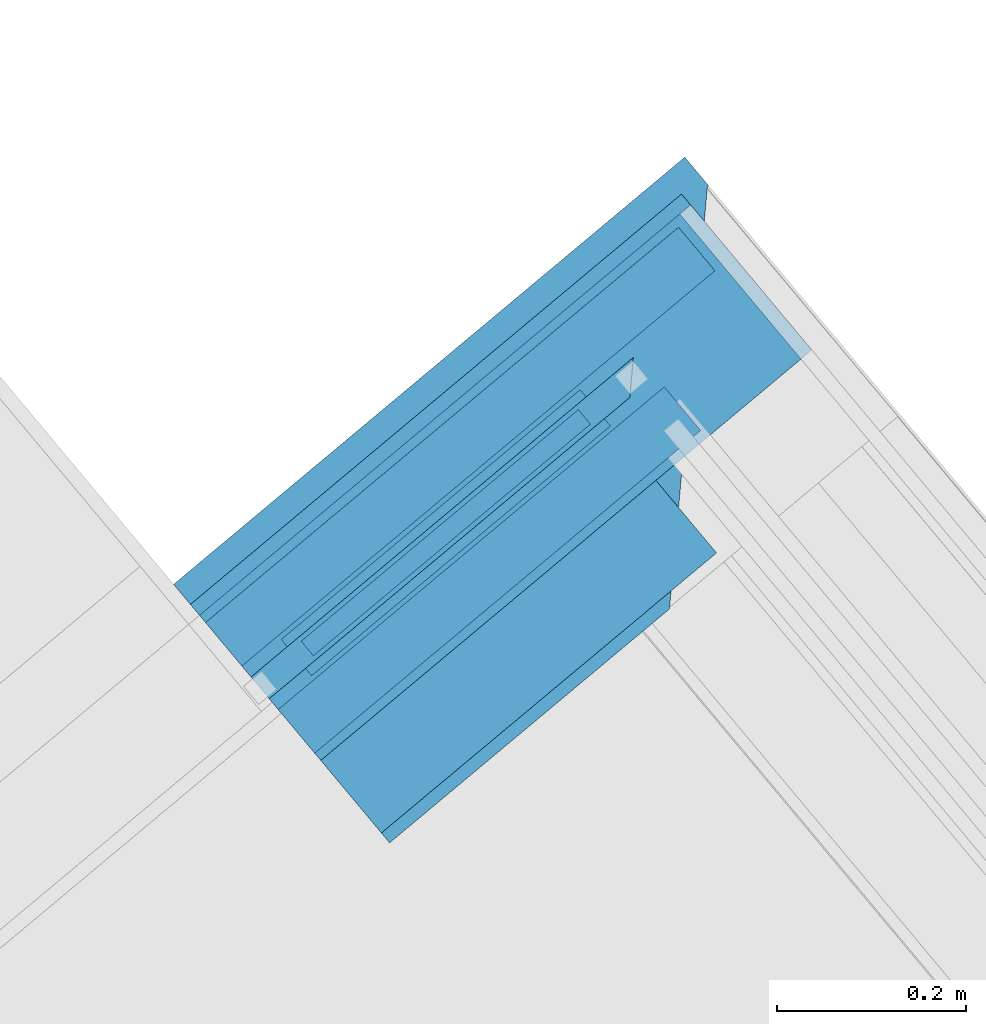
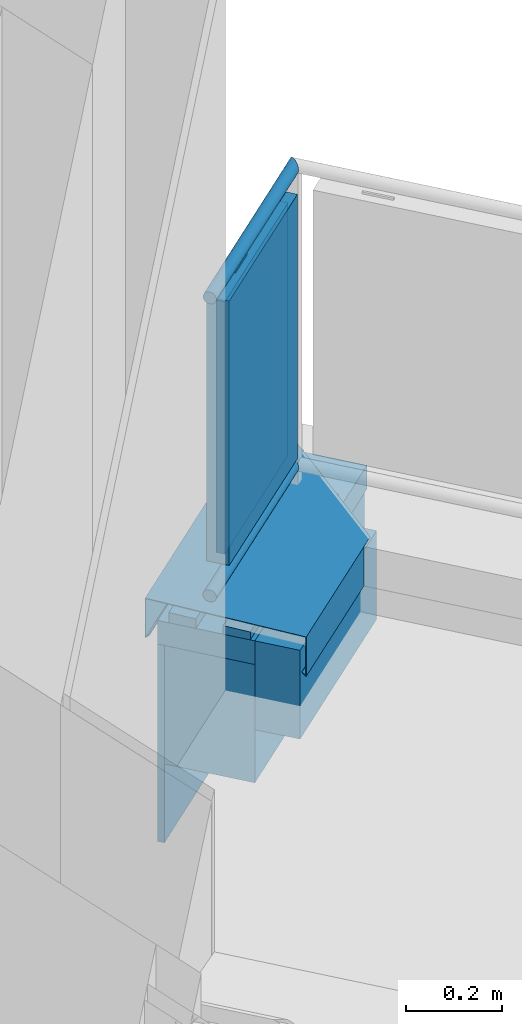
# One storey, part 43 of 50: 11 building element parts, 2 elements without a shape of their own.
"""IFC4 building model written with IfcOpenShell, lengths in metres."""

from ifc_helpers import new_model, entity, si_unit, converted_unit, derived_unit, direction, frame, origin_with_axes, place, context, subcontext, project, spatial, polygons, material, type_object, element, aggregate, save


model = new_model("IFC4")

# Units and contexts
model_context = context("Model", 3, precision=1e-05, world=origin_with_axes(), true_north=direction((0.0, 1.0)))
body_context = subcontext(model_context, "Body", "Model", "MODEL_VIEW")
ifc_project = project(units=[si_unit("LENGTHUNIT", "METRE"), si_unit("AREAUNIT", "SQUARE_METRE"), si_unit("VOLUMEUNIT", "CUBIC_METRE"), converted_unit("PLANEANGLEUNIT", "DEGREE", entity("IfcPlaneAngleMeasure", 0.0174532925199), si_unit("PLANEANGLEUNIT", "RADIAN"), dimensions=[0, 0, 0, 0, 0, 0, 0]), converted_unit("TIMEUNIT", "Year", entity("IfcTimeMeasure", 31556926.0), si_unit("TIMEUNIT", "SECOND"), dimensions=[0, 0, 1, 0, 0, 0, 0]), si_unit("MASSUNIT", "GRAM", prefix="KILO"), si_unit("THERMODYNAMICTEMPERATUREUNIT", "DEGREE_CELSIUS"), si_unit("LUMINOUSINTENSITYUNIT", "LUMEN"), si_unit("ENERGYUNIT", "JOULE", prefix="MEGA"), derived_unit("THERMALCONDUCTANCEUNIT", [(si_unit("POWERUNIT", "WATT"), 1), (si_unit("LENGTHUNIT", "METRE"), -1), (si_unit("THERMODYNAMICTEMPERATUREUNIT", "KELVIN"), -1)]), derived_unit("SPECIFICHEATCAPACITYUNIT", [(si_unit("ENERGYUNIT", "JOULE"), 1), (si_unit("MASSUNIT", "GRAM", prefix="KILO"), -1), (si_unit("THERMODYNAMICTEMPERATUREUNIT", "KELVIN"), -1)]), derived_unit("MASSDENSITYUNIT", [(si_unit("MASSUNIT", "GRAM", prefix="KILO"), 1), (si_unit("VOLUMEUNIT", "CUBIC_METRE"), -1)])], contexts=[model_context])

# Site, building, storey
site_placement = place(None, frame((-0.00153261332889, -0.00661245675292, 0.0), z_axis=(0.0, 0.0, 1.0), x_axis=(1.0, 0.0, 0.0)))
site = spatial("IfcSite", under=ifc_project, at=site_placement, Name="Site", CompositionType="ELEMENT")
building_placement = place(site_placement, origin_with_axes())
building = spatial("IfcBuilding", under=site, at=building_placement, Name="Building", CompositionType="ELEMENT")
storey_placement = place(building_placement, frame((0.0, 0.0, 2.74), z_axis=(0.0, 0.0, 1.0), x_axis=(1.0, 0.0, 0.0)))
storey = spatial("IfcBuildingStorey", under=building, at=storey_placement, Name="OG1", CompositionType="ELEMENT", Elevation=2.74)

# Wall, building element parts
wall_type = type_object("IfcWallType", Name="Bauteil - Attika Balkon 356 x 610", PredefinedType="NOTDEFINED")
wall_placement = place(storey_placement, frame((10.2419035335, 25.5187648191, -0.2), z_axis=(0.0, 0.0, 1.0), x_axis=(0.767364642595, 0.641210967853, 0.0)))
wall = element("IfcWall", 1, at=wall_placement, inside=storey, type_object=wall_type, Name="Wand-003", PredefinedType="NOTDEFINED")
ifc_material_1 = material(Name="Zementputz")
building_element_part_1_placement = place(wall_placement, origin_with_axes())
building_element_part_1 = element("IfcBuildingElementPart", 2, at=building_element_part_1_placement, material=ifc_material_1, Name="Zementputz", PredefinedType="NOTDEFINED", context=body_context, shape_type="Tessellation", body=[
    polygons([(0.676930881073, 0.199999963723, 0.200000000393), (0.676930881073, 0.199999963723, 0.499999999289), (0.0, 0.199999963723, 0.500000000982), (0.0, 0.199999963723, 0.200000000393), (0.676930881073, 0.199999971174, 0.0), (0.6769309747, 0.214999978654, 0.0), (0.6769309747, 0.214999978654, 0.499999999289), (0.0, 0.214999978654, 0.500000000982), (0.0, 0.214999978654, 0.0), (0.0, 0.199999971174, 0.0)], [[[1, 2, 3, 4]], [[2, 1, 5, 6, 7]], [[2, 7, 8, 3]], [[3, 8, 9, 10, 4]], [[5, 1, 4, 10]], [[6, 5, 10, 9]], [[7, 6, 9, 8]]], closed=True),
])
ifc_material_2 = material(Name="Vollholz")
building_element_part_2_placement = place(wall_placement, origin_with_axes())
building_element_part_2 = element("IfcBuildingElementPart", 3, at=building_element_part_2_placement, material=ifc_material_2, Name="Vollholz", PredefinedType="NOTDEFINED", context=body_context, shape_type="Tessellation", body=[
    polygons([(0.651926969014, 0.189996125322, 0.584015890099), (0.651926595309, 0.130124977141, 0.584015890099), (0.651937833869, 0.130124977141, 0.581921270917), (0.651938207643, 0.190007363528, 0.581921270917), (0.651915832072, 0.189984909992, 0.586106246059), (0.0, 0.130124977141, 0.584015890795), (0.0, 0.130124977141, 0.560000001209), (0.652055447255, 0.130124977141, 0.559999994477), (0.651971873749, 0.130124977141, 0.575576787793), (0.651949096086, 0.130124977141, 0.57982217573), (0.651949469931, 0.190018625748, 0.57982217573), (0.651972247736, 0.190041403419, 0.575576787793), (0.652055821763, 0.190124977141, 0.559999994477), (0.0, 0.190124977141, 0.560000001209), (0.0, 0.189984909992, 0.586106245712)], [[[1, 2, 3, 4]], [[5, 2, 1]], [[3, 2, 6, 7, 8, 9, 10]], [[4, 3, 10, 11]], [[5, 1, 4, 11, 12, 13, 14, 15]], [[2, 5, 15, 6]], [[6, 15, 14, 7]], [[13, 8, 7, 14]], [[12, 9, 8, 13]], [[11, 10, 9, 12]]], closed=True),
])
ifc_material_3 = material(Name="Brettschichtholz")
building_element_part_3_placement = place(wall_placement, origin_with_axes())
building_element_part_3 = element("IfcBuildingElementPart", 4, at=building_element_part_3_placement, material=ifc_material_3, Name="Brettschichtholz", PredefinedType="NOTDEFINED", context=body_context, shape_type="Tessellation", body=[
    polygons([(0.676929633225, 0.0, 0.519273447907), (0.676929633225, 0.0, 0.56000000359), (0.0, 0.0, 0.560000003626), (0.0, 0.0, 0.499999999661), (0.676929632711, 0.0, 0.499999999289), (0.676929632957, 0.0, 0.509099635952), (0.676929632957, 0.0, 0.511410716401), (0.676929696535, 0.010142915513, 0.56000000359), (0.676930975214, 0.214999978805, 0.519273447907), (0.676930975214, 0.214999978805, 0.56000000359), (0.676930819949, 0.190124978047, 0.56000000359), (0.67693044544, 0.130124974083, 0.56000000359), (0.676930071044, 0.0701429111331, 0.56000000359), (0.0, 0.010142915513, 0.559999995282), (0.0, 0.130124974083, 0.559999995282), (0.0, 0.190124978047, 0.559999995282), (0.0, 0.214999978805, 0.560000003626), (0.0, 0.214999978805, 0.499999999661), (0.0, 0.0701429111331, 0.559999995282), (0.6769309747, 0.214999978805, 0.499999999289), (0.676930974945, 0.214999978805, 0.509099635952), (0.676930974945, 0.214999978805, 0.511410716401)], [[[1, 2, 3, 4, 5, 6, 7]], [[8, 2, 1, 9, 10, 11, 12, 13]], [[2, 8, 14, 3]], [[15, 16, 17, 18, 4, 3, 14, 19]], [[18, 20, 5, 4]], [[21, 6, 5, 20]], [[22, 7, 6, 21]], [[9, 1, 7, 22]], [[10, 9, 22, 21, 20, 18, 17]], [[11, 10, 17, 16]], [[12, 11, 16, 15]], [[13, 12, 15, 19]], [[8, 13, 19, 14]]], closed=True),
])
ifc_material_4 = material(Name="Stahlbeton")
building_element_part_4_placement = place(wall_placement, origin_with_axes())
building_element_part_4 = element("IfcBuildingElementPart", 5, at=building_element_part_4_placement, material=ifc_material_4, Name="Stahlbeton", PredefinedType="NOTDEFINED", context=body_context, shape_type="Tessellation", body=[
    polygons([(0.661929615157, 1.05296926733e-09, 0.498915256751), (0.661929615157, 1.05296926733e-09, 0.500000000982), (0.0, 1.05297104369e-09, 0.500000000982), (0.0, 1.05297104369e-09, 0.335000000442), (0.661929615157, 1.05296749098e-09, 0.334999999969), (0.661929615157, 1.05296926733e-09, 0.496604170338), (0.661930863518, 0.19999996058, 0.500000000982), (0.661930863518, 0.19999996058, 0.498915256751), (0.0, 0.19999996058, 0.500000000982), (0.0, 0.19999996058, 0.2), (0.0, 1.05297104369e-09, 0.2), (0.661929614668, 1.05296749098e-09, 0.2), (0.661930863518, 0.19999996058, 0.496604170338), (0.661930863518, 0.19999996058, 0.334999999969), (0.66193086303, 0.19999996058, 0.2)], [[[1, 2, 3, 4, 5, 6]], [[7, 2, 1, 8]], [[2, 7, 9, 3]], [[3, 9, 10, 11, 4]], [[12, 5, 4, 11]], [[13, 6, 5, 14]], [[8, 1, 6, 13]], [[7, 8, 13, 14, 15, 10, 9]], [[15, 12, 11, 10]], [[14, 5, 12, 15]]], closed=True),
])
building_element_part_5_placement = place(wall_placement, origin_with_axes())
building_element_part_5 = element("IfcBuildingElementPart", 6, at=building_element_part_5_placement, material=ifc_material_2, Name="Vollholz", PredefinedType="NOTDEFINED", context=body_context, shape_type="Tessellation", body=[
    polygons([(0.532073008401, 0.0701429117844, 0.57982217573), (0.532072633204, 0.0100326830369, 0.57982217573), (0.532072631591, 0.0100562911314, 0.575576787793), (0.53207300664, 0.0701429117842, 0.575576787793), (0.532073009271, 0.0701429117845, 0.581921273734), (0.0, 0.0100326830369, 0.579822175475), (0.0, 0.0101429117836, 0.560000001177), (0.532072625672, 0.0101429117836, 0.559999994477), (0.532073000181, 0.0701429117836, 0.559999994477), (0.0, 0.0701429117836, 0.560000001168), (0.0, 0.0701429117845, 0.581921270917)], [[[1, 2, 3, 4]], [[5, 2, 1]], [[3, 2, 6, 7, 8]], [[4, 3, 8, 9]], [[5, 1, 4, 9, 10, 11]], [[2, 5, 11, 6]], [[6, 11, 10, 7]], [[9, 8, 7, 10]]], closed=True),
])
ifc_material_5 = material(Name="EPS 1")
building_element_part_6_placement = place(wall_placement, origin_with_axes())
building_element_part_6 = element("IfcBuildingElementPart", 7, at=building_element_part_6_placement, material=ifc_material_5, Name="EPS 1", PredefinedType="NOTDEFINED", context=body_context, shape_type="Tessellation", body=[
    polygons([(0.461929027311, -0.0999999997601, 0.519273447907), (0.461929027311, -0.0999999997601, 0.560000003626), (0.0, -0.0999999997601, 0.560000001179), (0.0, -0.0999999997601, 0.334999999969), (0.461929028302, -0.0999999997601, 0.334999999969), (0.461929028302, -0.0999999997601, 0.496604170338), (0.461929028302, -0.0999999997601, 0.498915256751), (0.461929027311, -0.0999999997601, 0.499999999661), (0.461929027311, -0.0999999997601, 0.506731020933), (0.461929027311, -0.0999999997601, 0.509099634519), (0.461929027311, -0.0999999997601, 0.511410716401), (0.461929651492, 2.39911202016e-10, 0.560000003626), (0.461929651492, 2.39905872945e-10, 0.519273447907), (0.0, 2.39907649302e-10, 0.560000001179), (0.0, 2.39907649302e-10, 0.334999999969), (0.461929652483, 2.39905872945e-10, 0.334999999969), (0.461929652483, 2.39905872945e-10, 0.496604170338), (0.461929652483, 2.39905872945e-10, 0.498915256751), (0.461929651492, 2.39911202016e-10, 0.499999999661), (0.461929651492, 2.39905872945e-10, 0.506731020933), (0.461929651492, 2.39905872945e-10, 0.509099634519), (0.461929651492, 2.39905872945e-10, 0.511410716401)], [[[1, 2, 3, 4, 5, 6, 7, 8, 9, 10, 11]], [[12, 2, 1, 13]], [[2, 12, 14, 3]], [[4, 3, 14, 15]], [[16, 5, 4, 15]], [[17, 6, 5, 16]], [[18, 7, 6, 17]], [[19, 8, 7, 18]], [[20, 9, 8, 19]], [[21, 10, 9, 20]], [[22, 11, 10, 21]], [[13, 1, 11, 22]], [[12, 13, 22, 21, 20, 19, 18, 17, 16, 15, 14]]], closed=True),
])
ifc_material_6 = material(Name="Stahl")
building_element_part_7_placement = place(wall_placement, origin_with_axes())
building_element_part_7 = element("IfcBuildingElementPart", 8, at=building_element_part_7_placement, material=ifc_material_6, Name="Stahl", PredefinedType="NOTDEFINED", context=body_context, shape_type="Tessellation", body=[
    polygons([(0.349285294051, -0.112643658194, 0.496604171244), (0.0, -0.112643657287, 0.496604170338), (0.0, -0.103427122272, 0.505820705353), (0.358501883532, -0.103427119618, 0.505820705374), (0.352681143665, -0.109247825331, 0.499999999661), (0.351596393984, -0.110332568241, 0.498915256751), (0.0, -0.113600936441, 0.497561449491), (0.350242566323, -0.113600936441, 0.497561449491), (0.0, -0.113600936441, 0.597151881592), (0.0, 0.242707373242, 0.610055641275), (0.0, 0.242707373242, 0.510056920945), (0.0, 0.241750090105, 0.509099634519), (0.0, 0.232580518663, 0.518269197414), (0.0, 0.233490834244, 0.519273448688), (0.0, 0.241353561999, 0.511410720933), (0.0, 0.24135992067, 0.60865214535), (0.0, 0.23927649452, 0.608570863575), (0.0, -0.112247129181, 0.595846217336), (0.0, -0.112247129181, 0.498915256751), (0.0, -0.104431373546, 0.506731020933), (0.357497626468, -0.104431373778, 0.506731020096), (0.358501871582, -0.105341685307, 0.505820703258), (0.352681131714, -0.111162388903, 0.499999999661), (0.351596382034, -0.112247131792, 0.498915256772), (0.351596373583, -0.11360093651, 0.498915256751), (0.34968181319, -0.11360093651, 0.498915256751), (0.349681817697, -0.11360093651, 0.499999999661), (0.349681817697, -0.11360093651, 0.506731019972), (0.349681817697, -0.11360093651, 0.509099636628), (0.349681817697, -0.11360093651, 0.511410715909), (0.349681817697, -0.1136009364, 0.519273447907), (0.349681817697, -0.11360093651, 0.559999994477), (0.349681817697, -0.11360093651, 0.575576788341), (0.349681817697, -0.11360093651, 0.579822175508), (0.349681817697, -0.11360093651, 0.581921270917), (0.349681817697, -0.11360093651, 0.584015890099), (0.349681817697, -0.11360093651, 0.586106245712), (0.34968181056, -0.11360093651, 0.5958462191), (0.385751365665, -0.11360093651, 0.597151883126), (0.701207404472, 0.201708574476, 0.608570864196), (0.703290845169, 0.203952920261, 0.608652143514), (0.704638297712, 0.203952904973, 0.60865214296), (0.704638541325, 0.242707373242, 0.610055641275), (0.704638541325, 0.242707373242, 0.510056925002), (0.703681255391, 0.241750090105, 0.509099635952), (0.704638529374, 0.24079279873, 0.510056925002), (0.704638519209, 0.23943900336, 0.511410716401), (0.703284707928, 0.239438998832, 0.511410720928), (0.696426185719, 0.232580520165, 0.518269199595), (0.695421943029, 0.233490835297, 0.519273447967), (0.703284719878, 0.24135356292, 0.511410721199), (0.704638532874, 0.241353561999, 0.511410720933), (0.704638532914, 0.24135992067, 0.60865214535), (0.703291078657, 0.2413599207, 0.608652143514), (0.701207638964, 0.239276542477, 0.608570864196), (0.349681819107, -0.112247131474, 0.595846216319), (0.349681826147, -0.112247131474, 0.586106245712), (0.349681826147, -0.112247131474, 0.584015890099), (0.349681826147, -0.112247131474, 0.581921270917), (0.349681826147, -0.112247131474, 0.579822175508), (0.349681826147, -0.112247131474, 0.575576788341), (0.349681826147, -0.112247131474, 0.559999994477), (0.349681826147, -0.112247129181, 0.519273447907), (0.349681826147, -0.112247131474, 0.511410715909), (0.349681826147, -0.112247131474, 0.509099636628), (0.349681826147, -0.112247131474, 0.506731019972), (0.349681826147, -0.112247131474, 0.499999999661), (0.34968182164, -0.112247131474, 0.498915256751)], [[[1, 2, 3, 4, 5, 6]], [[7, 2, 1, 8]], [[2, 7, 9, 10, 11, 12, 13, 14, 15, 16, 17, 18, 19, 20, 3]], [[3, 20, 21, 4]], [[5, 4, 22, 23]], [[6, 5, 23, 24]], [[1, 6, 24, 25, 8]], [[9, 7, 8, 25, 26, 27, 28, 29, 30, 31, 32, 33, 34, 35, 36, 37, 38, 39]], [[10, 9, 39, 40, 41, 42, 43]], [[11, 10, 43, 44]], [[12, 11, 44, 45]], [[13, 12, 45, 46, 47, 48, 49]], [[14, 13, 49, 50]], [[15, 14, 50, 51]], [[16, 15, 51, 52, 53, 54]], [[17, 16, 54, 55]], [[56, 18, 17, 55]], [[19, 18, 56, 57, 58, 59, 60, 61, 62, 63, 64, 65, 66, 67, 68]], [[20, 19, 68, 24, 23, 22, 21]], [[4, 21, 22]], [[68, 26, 25, 24]], [[68, 67, 27, 26]], [[28, 27, 67, 66]], [[29, 28, 66, 65]], [[30, 29, 65, 64]], [[63, 31, 30, 64]], [[31, 63, 62, 32]], [[33, 32, 62, 61]], [[34, 33, 61, 60]], [[35, 34, 60, 59]], [[36, 35, 59, 58]], [[37, 36, 58, 57]], [[57, 56, 38, 37]], [[38, 56, 55, 40, 39]], [[40, 55, 54, 41]], [[41, 54, 53, 42]], [[43, 42, 53, 52, 47, 46, 44]], [[46, 45, 44]], [[48, 47, 52, 51]], [[51, 50, 49, 48]]], closed=True),
])
aggregate(wall, [building_element_part_1, building_element_part_2, building_element_part_3, building_element_part_4, building_element_part_5, building_element_part_6, building_element_part_7])

# Railing, building element parts
railing_type = type_object("IfcRailingType", Name="Geländerart", PredefinedType="NOTDEFINED")
railing_placement = place(storey_placement, frame((13.1317464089, 20.5971564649, 0.38), z_axis=(0.0, 0.0, 1.0), x_axis=(1.0, 0.0, 0.0)))
railing = element("IfcRailing", 9, at=railing_placement, inside=storey, type_object=railing_type, Name="Geländer - 001", PredefinedType="NOTDEFINED")
ifc_material_7 = material(Name="Aluminium")
building_element_part_8_placement = place(railing_placement, origin_with_axes())
building_element_part_8 = element("IfcBuildingElementPart", 10, at=building_element_part_8_placement, material=ifc_material_7, Name="Aluminium", PredefinedType="NOTDEFINED", context=body_context, shape_type="Tessellation", body=[
    polygons([(-2.5630191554, 5.30547143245, 0.825), (-2.56299040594, 5.30579242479, 0.827604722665), (-2.94449198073, 4.9870091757, 0.827604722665), (-2.9443458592, 4.9868343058, 0.825), (-2.56299040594, 5.30579242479, 0.822395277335), (-2.56290503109, 5.30674564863, 0.81986969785), (-2.56276562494, 5.30830214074, 0.8175), (-2.56257642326, 5.31041460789, 0.815358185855), (-2.56234317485, 5.31301886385, 0.813509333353), (-2.56207296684, 5.31603577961, 0.812009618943), (-2.56177400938, 5.3193736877, 0.810904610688), (-2.56145538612, 5.3229311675, 0.810227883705), (-2.56112677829, 5.32660012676, 0.81), (-2.56079817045, 5.33026908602, 0.810227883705), (-2.5604795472, 5.33382656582, 0.810904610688), (-2.56018058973, 5.33716447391, 0.812009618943), (-2.55991038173, 5.34018138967, 0.813509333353), (-2.55967713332, 5.34278564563, 0.815358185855), (-2.55948793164, 5.34489811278, 0.8175), (-2.55934852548, 5.34645460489, 0.81986969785), (-2.55926315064, 5.34740782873, 0.822395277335), (-2.55923440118, 5.34772882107, 0.825), (-2.55926315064, 5.34740782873, 0.827604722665), (-2.55934852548, 5.34645460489, 0.83013030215), (-2.55948793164, 5.34489811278, 0.8325), (-2.55967713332, 5.34278564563, 0.834641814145), (-2.55991038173, 5.34018138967, 0.836490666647), (-2.56018058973, 5.33716447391, 0.837990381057), (-2.5604795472, 5.33382656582, 0.839095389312), (-2.56079817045, 5.33026908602, 0.839772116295), (-2.56112677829, 5.32660012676, 0.84), (-2.56145538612, 5.3229311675, 0.839772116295), (-2.56177400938, 5.3193736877, 0.839095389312), (-2.56207296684, 5.31603577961, 0.837990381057), (-2.56234317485, 5.31301886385, 0.836490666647), (-2.56257642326, 5.31041460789, 0.834641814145), (-2.56276562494, 5.30830214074, 0.8325), (-2.56290503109, 5.30674564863, 0.83013030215), (-2.94492590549, 4.98752847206, 0.83013030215), (-2.9456344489, 4.98837641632, 0.8325), (-2.94659608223, 4.98952724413, 0.834641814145), (-2.94778158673, 4.99094598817, 0.836490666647), (-2.94915494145, 4.99258954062, 0.837990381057), (-2.95067441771, 4.99440796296, 0.839095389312), (-2.95229384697, 4.99634600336, 0.839772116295), (-2.95396402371, 4.99834477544, 0.84), (-2.95563420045, 5.00034354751, 0.839772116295), (-2.95725362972, 5.00228158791, 0.839095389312), (-2.95877310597, 5.00410001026, 0.837990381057), (-2.96014646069, 5.0057435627, 0.836490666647), (-2.9613319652, 5.00716230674, 0.834641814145), (-2.96229359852, 5.00831313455, 0.8325), (-2.96300214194, 5.00916107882, 0.83013030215), (-2.9634360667, 5.00968037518, 0.827604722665), (-2.96358218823, 5.00985524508, 0.825), (-2.9634360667, 5.00968037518, 0.822395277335), (-2.96300214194, 5.00916107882, 0.81986969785), (-2.96229359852, 5.00831313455, 0.8175), (-2.9613319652, 5.00716230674, 0.815358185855), (-2.96014646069, 5.0057435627, 0.813509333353), (-2.95877310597, 5.00410001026, 0.812009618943), (-2.95725362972, 5.00228158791, 0.810904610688), (-2.95563420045, 5.00034354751, 0.810227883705), (-2.95396402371, 4.99834477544, 0.81), (-2.95229384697, 4.99634600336, 0.810227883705), (-2.95067441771, 4.99440796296, 0.810904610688), (-2.94915494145, 4.99258954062, 0.812009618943), (-2.94778158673, 4.99094598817, 0.813509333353), (-2.94659608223, 4.98952724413, 0.815358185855), (-2.9456344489, 4.98837641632, 0.8175), (-2.94492590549, 4.98752847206, 0.81986969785), (-2.94449198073, 4.9870091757, 0.822395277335)], [[[1, 2, 3, 4]], [[1, 5, 6, 7, 8, 9, 10, 11, 12, 13, 14, 15, 16, 17, 18, 19, 20, 21, 22, 23, 24, 25, 26, 27, 28, 29, 30, 31, 32, 33, 34, 35, 36, 37, 38, 2]], [[2, 38, 39, 3]], [[4, 3, 39, 40, 41, 42, 43, 44, 45, 46, 47, 48, 49, 50, 51, 52, 53, 54, 55, 56, 57, 58, 59, 60, 61, 62, 63, 64, 65, 66, 67, 68, 69, 70, 71, 72]], [[5, 1, 4, 72]], [[6, 5, 72, 71]], [[7, 6, 71, 70]], [[8, 7, 70, 69]], [[9, 8, 69, 68]], [[10, 9, 68, 67]], [[11, 10, 67, 66]], [[12, 11, 66, 65]], [[13, 12, 65, 64]], [[14, 13, 64, 63]], [[15, 14, 63, 62]], [[16, 15, 62, 61]], [[17, 16, 61, 60]], [[18, 17, 60, 59]], [[19, 18, 59, 58]], [[20, 19, 58, 57]], [[21, 20, 57, 56]], [[22, 21, 56, 55]], [[23, 22, 55, 54]], [[24, 23, 54, 53]], [[25, 24, 53, 52]], [[26, 25, 52, 51]], [[27, 26, 51, 50]], [[28, 27, 50, 49]], [[29, 28, 49, 48]], [[30, 29, 48, 47]], [[31, 30, 47, 46]], [[32, 31, 46, 45]], [[33, 32, 45, 44]], [[34, 33, 44, 43]], [[35, 34, 43, 42]], [[36, 35, 42, 41]], [[37, 36, 41, 40]], [[38, 37, 40, 39]]], closed=True),
])
building_element_part_9_placement = place(railing_placement, origin_with_axes())
building_element_part_9 = element("IfcBuildingElementPart", 11, at=building_element_part_9_placement, material=ifc_material_7, Name="Aluminium", PredefinedType="NOTDEFINED", context=body_context, shape_type="Tessellation", body=[
    polygons([(-2.5630191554, 5.30547143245, 0.07), (-2.56299040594, 5.30579242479, 0.072604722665), (-2.94449198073, 4.9870091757, 0.072604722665), (-2.9443458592, 4.9868343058, 0.07), (-2.56299040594, 5.30579242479, 0.067395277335), (-2.56290503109, 5.30674564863, 0.0648696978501), (-2.56276562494, 5.30830214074, 0.0625), (-2.56257642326, 5.31041460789, 0.0603581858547), (-2.56234317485, 5.31301886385, 0.0585093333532), (-2.56207296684, 5.31603577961, 0.0570096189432), (-2.56177400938, 5.3193736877, 0.0559046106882), (-2.56145538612, 5.3229311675, 0.0552278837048), (-2.56112677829, 5.32660012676, 0.055), (-2.56079817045, 5.33026908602, 0.0552278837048), (-2.5604795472, 5.33382656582, 0.0559046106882), (-2.56018058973, 5.33716447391, 0.0570096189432), (-2.55991038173, 5.34018138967, 0.0585093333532), (-2.55967713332, 5.34278564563, 0.0603581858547), (-2.55948793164, 5.34489811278, 0.0625), (-2.55934852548, 5.34645460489, 0.0648696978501), (-2.55926315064, 5.34740782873, 0.067395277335), (-2.55923440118, 5.34772882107, 0.07), (-2.55926315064, 5.34740782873, 0.072604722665), (-2.55934852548, 5.34645460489, 0.0751303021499), (-2.55948793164, 5.34489811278, 0.0775), (-2.55967713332, 5.34278564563, 0.0796418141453), (-2.55991038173, 5.34018138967, 0.0814906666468), (-2.56018058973, 5.33716447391, 0.0829903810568), (-2.5604795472, 5.33382656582, 0.0840953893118), (-2.56079817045, 5.33026908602, 0.0847721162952), (-2.56112677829, 5.32660012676, 0.085), (-2.56145538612, 5.3229311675, 0.0847721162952), (-2.56177400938, 5.3193736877, 0.0840953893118), (-2.56207296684, 5.31603577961, 0.0829903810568), (-2.56234317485, 5.31301886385, 0.0814906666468), (-2.56257642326, 5.31041460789, 0.0796418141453), (-2.56276562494, 5.30830214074, 0.0775), (-2.56290503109, 5.30674564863, 0.0751303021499), (-2.94492590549, 4.98752847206, 0.0751303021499), (-2.9456344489, 4.98837641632, 0.0775), (-2.94659608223, 4.98952724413, 0.0796418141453), (-2.94778158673, 4.99094598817, 0.0814906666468), (-2.94915494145, 4.99258954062, 0.0829903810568), (-2.95067441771, 4.99440796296, 0.0840953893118), (-2.95229384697, 4.99634600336, 0.0847721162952), (-2.95396402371, 4.99834477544, 0.085), (-2.95563420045, 5.00034354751, 0.0847721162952), (-2.95725362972, 5.00228158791, 0.0840953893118), (-2.95877310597, 5.00410001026, 0.0829903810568), (-2.96014646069, 5.0057435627, 0.0814906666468), (-2.9613319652, 5.00716230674, 0.0796418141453), (-2.96229359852, 5.00831313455, 0.0775), (-2.96300214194, 5.00916107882, 0.0751303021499), (-2.9634360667, 5.00968037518, 0.072604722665), (-2.96358218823, 5.00985524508, 0.07), (-2.9634360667, 5.00968037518, 0.067395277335), (-2.96300214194, 5.00916107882, 0.0648696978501), (-2.96229359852, 5.00831313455, 0.0625), (-2.9613319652, 5.00716230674, 0.0603581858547), (-2.96014646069, 5.0057435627, 0.0585093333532), (-2.95877310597, 5.00410001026, 0.0570096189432), (-2.95725362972, 5.00228158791, 0.0559046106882), (-2.95563420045, 5.00034354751, 0.0552278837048), (-2.95396402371, 4.99834477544, 0.055), (-2.95229384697, 4.99634600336, 0.0552278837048), (-2.95067441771, 4.99440796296, 0.0559046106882), (-2.94915494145, 4.99258954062, 0.0570096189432), (-2.94778158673, 4.99094598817, 0.0585093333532), (-2.94659608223, 4.98952724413, 0.0603581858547), (-2.9456344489, 4.98837641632, 0.0625), (-2.94492590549, 4.98752847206, 0.0648696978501), (-2.94449198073, 4.9870091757, 0.067395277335)], [[[1, 2, 3, 4]], [[1, 5, 6, 7, 8, 9, 10, 11, 12, 13, 14, 15, 16, 17, 18, 19, 20, 21, 22, 23, 24, 25, 26, 27, 28, 29, 30, 31, 32, 33, 34, 35, 36, 37, 38, 2]], [[2, 38, 39, 3]], [[4, 3, 39, 40, 41, 42, 43, 44, 45, 46, 47, 48, 49, 50, 51, 52, 53, 54, 55, 56, 57, 58, 59, 60, 61, 62, 63, 64, 65, 66, 67, 68, 69, 70, 71, 72]], [[5, 1, 4, 72]], [[6, 5, 72, 71]], [[7, 6, 71, 70]], [[8, 7, 70, 69]], [[9, 8, 69, 68]], [[10, 9, 68, 67]], [[11, 10, 67, 66]], [[12, 11, 66, 65]], [[13, 12, 65, 64]], [[14, 13, 64, 63]], [[15, 14, 63, 62]], [[16, 15, 62, 61]], [[17, 16, 61, 60]], [[18, 17, 60, 59]], [[19, 18, 59, 58]], [[20, 19, 58, 57]], [[21, 20, 57, 56]], [[22, 21, 56, 55]], [[23, 22, 55, 54]], [[24, 23, 54, 53]], [[25, 24, 53, 52]], [[26, 25, 52, 51]], [[27, 26, 51, 50]], [[28, 27, 50, 49]], [[29, 28, 49, 48]], [[30, 29, 48, 47]], [[31, 30, 47, 46]], [[32, 31, 46, 45]], [[33, 32, 45, 44]], [[34, 33, 44, 43]], [[35, 34, 43, 42]], [[36, 35, 42, 41]], [[37, 36, 41, 40]], [[38, 37, 40, 39]]], closed=True),
])
ifc_material_8 = material(Name="Profilit")
building_element_part_10_placement = place(railing_placement, origin_with_axes())
building_element_part_10 = element("IfcBuildingElementPart", 12, at=building_element_part_10_placement, material=ifc_material_8, Name="Profilit", PredefinedType="NOTDEFINED", context=body_context, shape_type="Tessellation", body=[
    polygons([(-2.89767321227, 5.03234984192, 0.135), (-2.60459337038, 5.27724776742, 0.135), (-2.60459337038, 5.27724776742, 0.775), (-2.89767321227, 5.03234984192, 0.775), (-2.61741758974, 5.29259506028, 0.135), (-2.91049743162, 5.04769713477, 0.135), (-2.61741758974, 5.29259506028, 0.775), (-2.91049743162, 5.04769713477, 0.775)], [[[1, 2, 3, 4]], [[5, 2, 1, 6]], [[7, 3, 2, 5]], [[4, 3, 7, 8]], [[1, 4, 8, 6]], [[7, 5, 6, 8]]], closed=True),
])
building_element_part_11_placement = place(railing_placement, origin_with_axes())
building_element_part_11 = element("IfcBuildingElementPart", 13, at=building_element_part_11_placement, material=ifc_material_7, Name="Aluminium", PredefinedType="NOTDEFINED", context=body_context, shape_type="Tessellation", body=[
    polygons([(-2.67462844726, 5.22850006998, 0.12), (-2.72834397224, 5.18361530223, 0.12), (-2.72834397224, 5.18361530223, 0.095), (-2.67462844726, 5.22850006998, 0.095), (-2.6778345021, 5.23233689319, 0.12), (-2.73155002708, 5.18745212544, 0.12), (-2.73155002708, 5.18745212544, 0.095), (-2.6778345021, 5.23233689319, 0.095)], [[[1, 2, 3, 4]], [[5, 6, 2, 1]], [[2, 6, 7, 3]], [[4, 3, 7, 8]], [[1, 4, 8, 5]], [[8, 7, 6, 5]]], closed=True),
    polygons([(-2.8372562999, 5.09260800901, 0.79), (-2.78354077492, 5.13749277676, 0.79), (-2.78354077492, 5.13749277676, 0.795), (-2.8372562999, 5.09260800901, 0.795), (-2.84046235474, 5.09644483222, 0.79), (-2.78674682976, 5.14132959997, 0.79), (-2.78674682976, 5.14132959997, 0.795), (-2.84046235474, 5.09644483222, 0.795)], [[[1, 2, 3, 4]], [[5, 6, 2, 1]], [[2, 6, 7, 3]], [[4, 3, 7, 8]], [[1, 4, 8, 5]], [[8, 7, 6, 5]]], closed=True),
    polygons([(-2.61552528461, 5.31372369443, 0.12), (-2.58346473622, 5.2753554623, 0.12), (-2.89956551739, 5.01122120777, 0.12), (-2.93162606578, 5.0495894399, 0.12), (-2.63087257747, 5.30089947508, 0.14), (-2.62125441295, 5.28938900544, 0.14), (-2.61741758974, 5.29259506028, 0.135), (-2.60459337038, 5.27724776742, 0.135), (-2.60843019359, 5.27404171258, 0.14), (-2.59881202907, 5.26253124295, 0.14), (-2.88421822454, 5.02404542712, 0.14), (-2.88421822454, 5.02404542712, 0.77), (-2.59881202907, 5.26253124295, 0.77), (-2.59881202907, 5.26253124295, 0.14), (-2.58346473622, 5.2753554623, 0.12), (-2.58346473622, 5.2753554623, 0.79), (-2.89956551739, 5.01122120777, 0.79), (-2.93162606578, 5.0495894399, 0.79), (-2.61552528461, 5.31372369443, 0.79), (-2.61552528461, 5.31372369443, 0.12), (-2.63087257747, 5.30089947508, 0.14), (-2.63087257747, 5.30089947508, 0.77), (-2.91627877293, 5.06241365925, 0.77), (-2.91627877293, 5.06241365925, 0.14), (-2.90666060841, 5.05090318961, 0.14), (-2.90666060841, 5.05090318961, 0.77), (-2.62125441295, 5.28938900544, 0.77), (-2.62125441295, 5.28938900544, 0.14), (-2.61741758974, 5.29259506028, 0.135), (-2.61741758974, 5.29259506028, 0.775), (-2.91049743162, 5.04769713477, 0.775), (-2.91049743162, 5.04769713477, 0.135), (-2.89767321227, 5.03234984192, 0.135), (-2.89767321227, 5.03234984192, 0.775), (-2.60459337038, 5.27724776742, 0.775), (-2.60459337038, 5.27724776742, 0.135), (-2.60843019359, 5.27404171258, 0.14), (-2.60843019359, 5.27404171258, 0.77), (-2.89383638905, 5.03555589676, 0.77), (-2.89383638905, 5.03555589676, 0.14)], [[[1, 2, 3, 4]], [[1, 5, 6, 7, 8, 9, 10, 2]], [[2, 10, 11, 12, 13, 14, 15, 16, 17, 3]], [[4, 3, 17, 18]], [[5, 1, 4, 18, 19, 20, 21, 22, 23, 24]], [[6, 5, 24, 25]], [[7, 6, 25, 26, 27, 28, 29, 30, 31, 32]], [[8, 7, 32, 33]], [[9, 8, 33, 34, 35, 36, 37, 38, 39, 40]], [[10, 9, 40, 11]], [[11, 40, 39, 12]], [[12, 39, 38, 13]], [[13, 38, 37, 14]], [[20, 15, 14, 37, 36, 29, 28, 21]], [[19, 16, 15, 20]], [[18, 17, 16, 19]], [[27, 22, 21, 28]], [[26, 23, 22, 27]], [[25, 24, 23, 26]], [[35, 30, 29, 36]], [[34, 31, 30, 35]], [[33, 32, 31, 34]]], closed=True),
])
aggregate(railing, [building_element_part_8, building_element_part_9, building_element_part_10, building_element_part_11])

save(model, "model.ifc")
